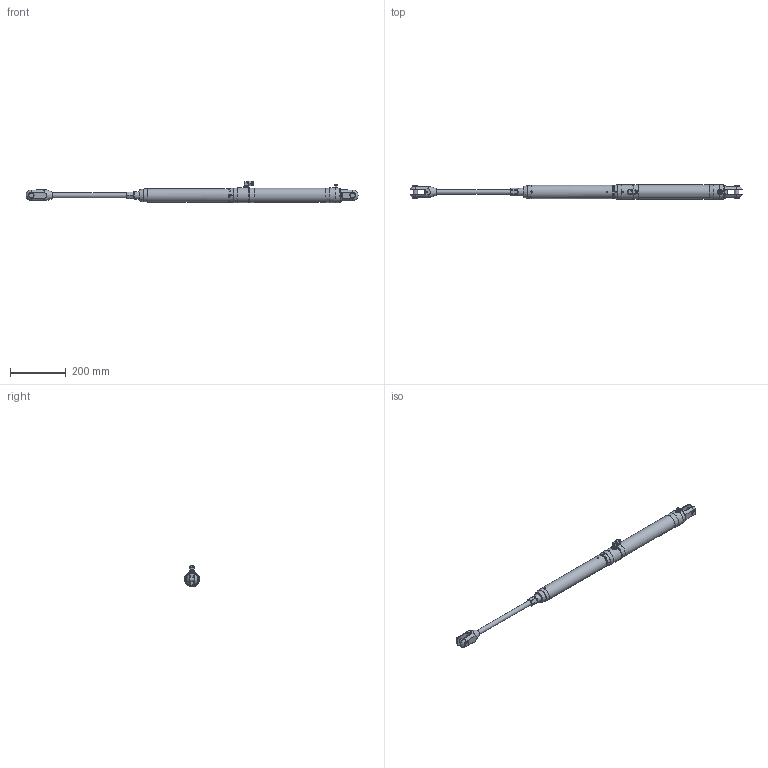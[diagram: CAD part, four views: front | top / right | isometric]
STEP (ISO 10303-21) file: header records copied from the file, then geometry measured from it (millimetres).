
FILE_DESCRIPTION(/* description */ (''),/* implementation_level */ '2;1');
FILE_NAME(/* name */ 'Q:\AA BRAND HYDRAULICS\HYDRAULICS FAMILY DIRECTORY\HYDRAULICS\CYLINDERS\MECHANICAL LOCK RAMS\ALUMINIUM - STAINLESS SINGLE ACTING (-0012 To -0150)\MSA-0012-S0260-NP-71\MSA-0012-S0260-NP-71 (Open).stp',/* time_stamp */ '2018-04-25T13:53:30+01:00',/* author */ ('Lorena'),/* organization */ (''),/* preprocessor_version */ 'ST-DEVELOPER v17',/* originating_system */ 'Autodesk Inventor 2018',/* authorisation */ '');
FILE_SCHEMA (('AUTOMOTIVE_DESIGN { 1 0 10303 214 3 1 1 }'));
Length unit declared in the file: millimetre
Products named in the file (1): MSA-0012-S0260-NP-71 (Open)
Bounding box: 1193.15 x 53.8 x 78.12 mm (x, y, z)
Volume: 1644581.3 mm3; surface area: 172300.3 mm2
Topology: 2 solids, 4 shells, 516 faces, 1358 edges, 884 vertices
Faces by surface type: plane 289, cone 131, cylinder 81, torus 6, bspline 5, sphere 4
Full cylindrical faces by diameter (mm): 3 x4, 3.5 x1, 4 x1, 4.2 x2, 4.4 x1, 5 x4, 7 x1, 7.728 x1, 8.728 x1, 8.8 x3, 9 x1, 9.728 x2, 10 x2, 11.11 x1, 11.8 x2, 12 x3, 13 x1, 15.1 x3, 15.88 x2, 17.5 x1, 18 x1, 19.85 x2, 27 x2, 28 x2, 31 x1, 48 x1, 50.8 x1, 53.8 x4
Entity records: 17653 total; most frequent: CARTESIAN_POINT 4562, ORIENTED_EDGE 2700, DIRECTION 2600, EDGE_CURVE 1350, AXIS2_PLACEMENT_3D 1002, VERTEX_POINT 885, LINE 596, VECTOR 596
